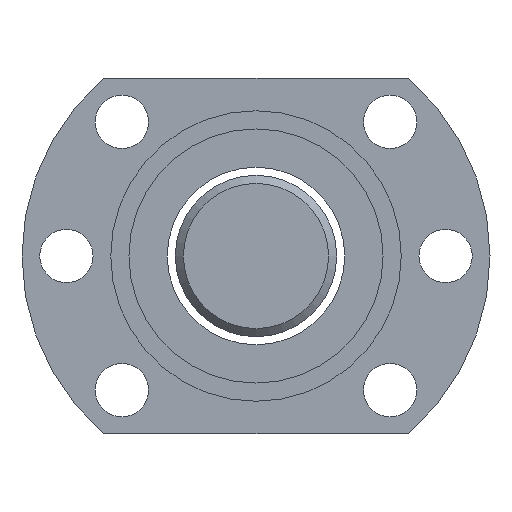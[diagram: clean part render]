
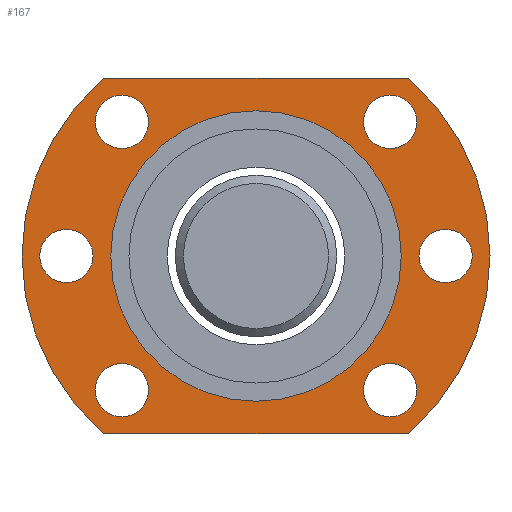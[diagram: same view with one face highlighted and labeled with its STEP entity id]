
A CAD part, left-side view. The second image highlights one B-rep face of the part: STEP entity #167.
In plain terms, the highlighted planar face has unit normal (-1, 0, 0).
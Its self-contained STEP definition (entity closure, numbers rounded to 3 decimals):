
#113=LINE('',#1132,#121);
#114=LINE('',#1136,#122);
#121=VECTOR('',#930,1.);
#122=VECTOR('',#933,1.);
#136=PLANE('',#782);
#167=ADVANCED_FACE('',(#267,#268,#269,#270,#271,#272,#273,#274),#136,.T.);
#267=FACE_BOUND('',#367,.T.);
#268=FACE_BOUND('',#368,.T.);
#269=FACE_BOUND('',#369,.T.);
#270=FACE_BOUND('',#370,.T.);
#271=FACE_BOUND('',#371,.T.);
#272=FACE_BOUND('',#372,.T.);
#273=FACE_BOUND('',#373,.T.);
#274=FACE_BOUND('',#374,.T.);
#367=EDGE_LOOP('',(#476));
#368=EDGE_LOOP('',(#477));
#369=EDGE_LOOP('',(#478,#479,#480,#481));
#370=EDGE_LOOP('',(#482));
#371=EDGE_LOOP('',(#483));
#372=EDGE_LOOP('',(#484));
#373=EDGE_LOOP('',(#485));
#374=EDGE_LOOP('',(#486));
#476=ORIENTED_EDGE('',*,*,#641,.T.);
#477=ORIENTED_EDGE('',*,*,#630,.F.);
#478=ORIENTED_EDGE('',*,*,#642,.T.);
#479=ORIENTED_EDGE('',*,*,#643,.T.);
#480=ORIENTED_EDGE('',*,*,#644,.T.);
#481=ORIENTED_EDGE('',*,*,#645,.T.);
#482=ORIENTED_EDGE('',*,*,#646,.F.);
#483=ORIENTED_EDGE('',*,*,#647,.F.);
#484=ORIENTED_EDGE('',*,*,#648,.F.);
#485=ORIENTED_EDGE('',*,*,#649,.T.);
#486=ORIENTED_EDGE('',*,*,#650,.T.);
#572=VERTEX_POINT('',#1104);
#583=VERTEX_POINT('',#1128);
#584=VERTEX_POINT('',#1130);
#585=VERTEX_POINT('',#1131);
#586=VERTEX_POINT('',#1133);
#587=VERTEX_POINT('',#1135);
#588=VERTEX_POINT('',#1138);
#589=VERTEX_POINT('',#1140);
#590=VERTEX_POINT('',#1142);
#591=VERTEX_POINT('',#1144);
#592=VERTEX_POINT('',#1146);
#630=EDGE_CURVE('',#572,#572,#692,.T.);
#641=EDGE_CURVE('',#583,#583,#701,.T.);
#642=EDGE_CURVE('',#584,#585,#702,.T.);
#643=EDGE_CURVE('',#585,#586,#113,.T.);
#644=EDGE_CURVE('',#586,#587,#703,.T.);
#645=EDGE_CURVE('',#587,#584,#114,.T.);
#646=EDGE_CURVE('',#588,#588,#704,.T.);
#647=EDGE_CURVE('',#589,#589,#705,.T.);
#648=EDGE_CURVE('',#590,#590,#706,.T.);
#649=EDGE_CURVE('',#591,#591,#707,.T.);
#650=EDGE_CURVE('',#592,#592,#708,.T.);
#692=CIRCLE('',#763,18.);
#701=CIRCLE('',#774,3.3);
#702=CIRCLE('',#775,29.);
#703=CIRCLE('',#776,29.);
#704=CIRCLE('',#777,3.3);
#705=CIRCLE('',#778,3.3);
#706=CIRCLE('',#779,3.3);
#707=CIRCLE('',#780,3.3);
#708=CIRCLE('',#781,3.3);
#763=AXIS2_PLACEMENT_3D('',#1103,#902,#903);
#774=AXIS2_PLACEMENT_3D('',#1127,#926,#927);
#775=AXIS2_PLACEMENT_3D('',#1129,#928,#929);
#776=AXIS2_PLACEMENT_3D('',#1134,#931,#932);
#777=AXIS2_PLACEMENT_3D('',#1137,#934,#935);
#778=AXIS2_PLACEMENT_3D('',#1139,#936,#937);
#779=AXIS2_PLACEMENT_3D('',#1141,#938,#939);
#780=AXIS2_PLACEMENT_3D('',#1143,#940,#941);
#781=AXIS2_PLACEMENT_3D('',#1145,#942,#943);
#782=AXIS2_PLACEMENT_3D('',#1147,#944,#945);
#902=DIRECTION('',(-1.,0.,0.));
#903=DIRECTION('',(0.,0.,-1.));
#926=DIRECTION('',(1.,0.,0.));
#927=DIRECTION('',(0.,0.,1.));
#928=DIRECTION('',(-1.,0.,0.));
#929=DIRECTION('',(0.,0.,-1.));
#930=DIRECTION('',(0.,-1.,0.));
#931=DIRECTION('',(-1.,0.,0.));
#932=DIRECTION('',(0.,0.,-1.));
#933=DIRECTION('',(0.,1.,0.));
#934=DIRECTION('',(-1.,0.,0.));
#935=DIRECTION('',(0.,0.,1.));
#936=DIRECTION('',(-1.,0.,0.));
#937=DIRECTION('',(0.,0.,1.));
#938=DIRECTION('',(-1.,0.,0.));
#939=DIRECTION('',(0.,0.,1.));
#940=DIRECTION('',(1.,0.,0.));
#941=DIRECTION('',(0.,0.,1.));
#942=DIRECTION('',(1.,0.,0.));
#943=DIRECTION('',(0.,0.,1.));
#944=DIRECTION('',(-1.,0.,0.));
#945=DIRECTION('',(0.,0.,1.));
#1103=CARTESIAN_POINT('',(37.833,-32.074,19.165));
#1104=CARTESIAN_POINT('',(37.833,-32.074,1.165));
#1127=CARTESIAN_POINT('',(37.833,-55.574,19.165));
#1128=CARTESIAN_POINT('',(37.833,-55.574,22.465));
#1129=CARTESIAN_POINT('',(37.833,-32.074,19.165));
#1130=CARTESIAN_POINT('',(37.833,-13.179,41.165));
#1131=CARTESIAN_POINT('',(37.833,-13.179,-2.835));
#1132=CARTESIAN_POINT('',(37.833,-13.179,-2.835));
#1133=CARTESIAN_POINT('',(37.833,-50.968,-2.835));
#1134=CARTESIAN_POINT('',(37.833,-32.074,19.165));
#1135=CARTESIAN_POINT('',(37.833,-50.968,41.165));
#1136=CARTESIAN_POINT('',(37.833,-50.968,41.165));
#1137=CARTESIAN_POINT('',(37.833,-8.574,19.165));
#1138=CARTESIAN_POINT('',(37.833,-8.574,22.465));
#1139=CARTESIAN_POINT('',(37.833,-15.457,35.782));
#1140=CARTESIAN_POINT('',(37.833,-15.457,39.082));
#1141=CARTESIAN_POINT('',(37.833,-15.457,2.548));
#1142=CARTESIAN_POINT('',(37.833,-15.457,5.848));
#1143=CARTESIAN_POINT('',(37.833,-48.691,2.548));
#1144=CARTESIAN_POINT('',(37.833,-48.691,5.848));
#1145=CARTESIAN_POINT('',(37.833,-48.691,35.782));
#1146=CARTESIAN_POINT('',(37.833,-48.691,39.082));
#1147=CARTESIAN_POINT('',(37.833,-32.074,19.165));
